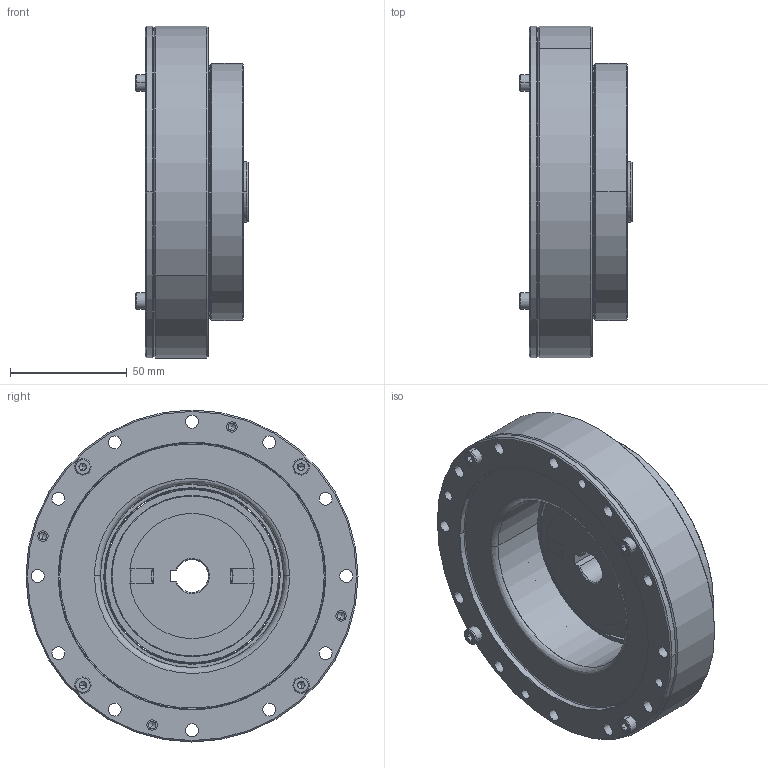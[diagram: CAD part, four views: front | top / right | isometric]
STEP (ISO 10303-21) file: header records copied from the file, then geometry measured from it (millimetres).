
FILE_DESCRIPTION (( 'STEP AP203' ), '1' );
FILE_NAME ('LHS-32-XXX-C-II.step', '2025-01-07T06:45:26', ( '' ), ( '' ), 'SwSTEP 2.0', 'SolidWorks 2023', '' );
FILE_SCHEMA (( 'CONFIG_CONTROL_DESIGN' ));
Length unit declared in the file: metre
Products named in the file (1): LHS-32-XXX-C-II
Bounding box: 48 x 142 x 142 mm (x, y, z)
Volume: 338665.7 mm3; surface area: 193226.4 mm2
Topology: 44 solids, 44 shells, 909 faces, 2250 edges, 1333 vertices
Faces by surface type: cylinder 374, plane 253, cone 162, bspline 120
Entity records: 30255 total; most frequent: CARTESIAN_POINT 8995, DIRECTION 4727, ORIENTED_EDGE 4172, EDGE_CURVE 2086, AXIS2_PLACEMENT_3D 1939, VERTEX_POINT 1333, CIRCLE 1149, EDGE_LOOP 1117
